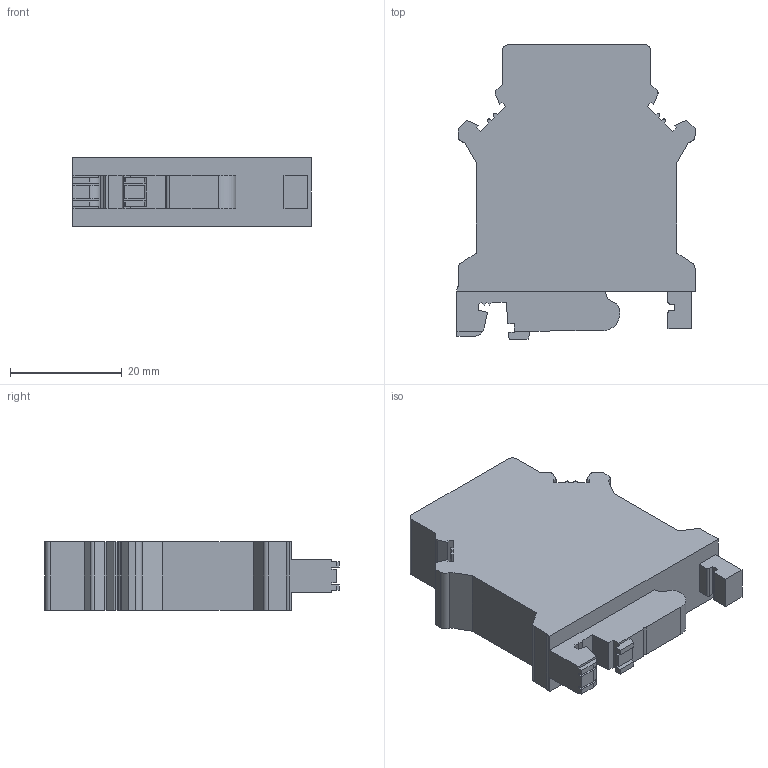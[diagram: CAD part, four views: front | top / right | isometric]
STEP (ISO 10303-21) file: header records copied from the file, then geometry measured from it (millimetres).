
FILE_DESCRIPTION(/* description */ (''),/* implementation_level */ '2;1');
FILE_NAME(/* name */ 'UT1-16PE(T).stp',/* time_stamp */ '2023-02-14T11:24:54+08:00',/* author */ (''),/* organization */ (''),/* preprocessor_version */ 'ST-DEVELOPER v16.7',/* originating_system */ 'SIEMENS PLM Software NX 12.0',/* authorisation */ '');
FILE_SCHEMA (('AP203_CONFIGURATION_CONTROLLED_3D_DESIGN_OF_MECHANICAL_PARTS_AND_ASSEMBLIES_MIM_LF { 1 0 10303 403 2 1 2}'));
Length unit declared in the file: millimetre
Products named in the file (1): Admi01CC23451n1m
Bounding box: 42.7 x 52.8 x 12.2 mm (x, y, z)
Volume: 19392.7 mm3; surface area: 6529.6 mm2
Topology: 1 solids, 1 shells, 133 faces, 381 edges, 254 vertices
Faces by surface type: plane 110, cylinder 23
Full cylindrical faces by diameter (mm): 5.4 x3
Entity records: 4394 total; most frequent: CARTESIAN_POINT 766, ORIENTED_EDGE 756, DIRECTION 698, EDGE_CURVE 378, LINE 326, VECTOR 326, VERTEX_POINT 254, AXIS2_PLACEMENT_3D 186
